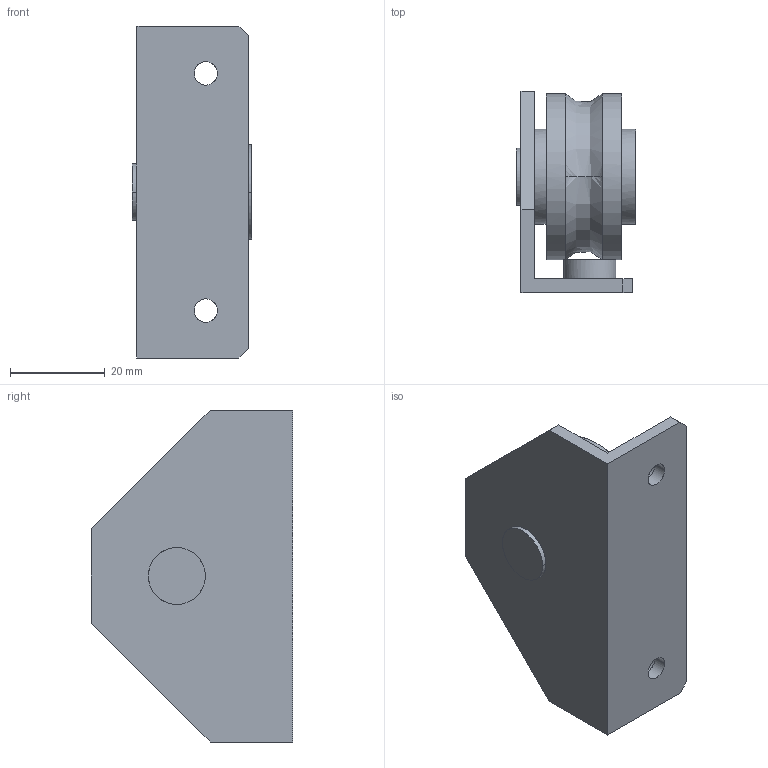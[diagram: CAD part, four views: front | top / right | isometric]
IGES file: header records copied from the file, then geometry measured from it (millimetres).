
Global section: file name: No Iges File Name specified; native system: AutoDesk Inventor R11.0; preprocessor: AutoDesk Inventor Iges Exporter R11.0; author: No Author specified; organization: No Organization specified; date: 20190426.192446; units: millimetre
Bounding box: 25.2 x 42.4 x 70 mm (x, y, z)
Surface area: 13059 mm2 (no closed solid volume)
Topology: 0 solids, 0 shells, 47 faces, 310 edges, 310 vertices
Faces by surface type: bspline 47
